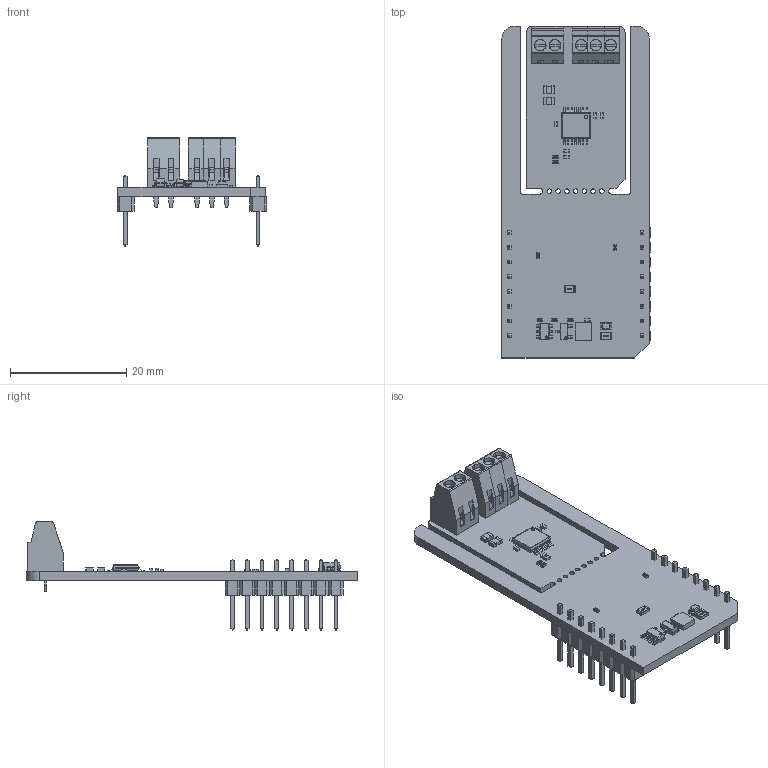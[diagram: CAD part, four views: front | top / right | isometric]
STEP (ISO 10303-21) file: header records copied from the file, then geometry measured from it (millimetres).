
FILE_DESCRIPTION(('Open CASCADE Model'),'2;1');
FILE_NAME('Open CASCADE Shape Model','2026-05-11T11:38:45',('Author'),( 'Open CASCADE'),'Open CASCADE STEP processor 7.5','Open CASCADE 7.5' ,'Unknown');
FILE_SCHEMA(('AUTOMOTIVE_DESIGN { 1 0 10303 214 1 1 1 1 }'));
Length unit declared in the file: millimetre
Products named in the file (47): PCB; Board; Open CASCADE STEP translator 7.5 1.1.1; R8; User Library-R_0402; R7; MBD1; Header 1x8; Free-Models; 1240637040; User_Library-PinHeaderX5-1_PinHeaderX5_Body_1; User_Library-PinHeaderX5-1_PinHeaderX5_Pins_1; JP1; User Library-R_0805; U2; User Library-SOT23-6-2; U1; 9590797408; Extruded; Q1; SOT23-3; R4; C1; User Library-SMD CAPACITOR0402; R2; LD1; led_0805_green; R1; R3; C2; C3; C4; User Library-SMD CAPACITOR0805; C5; C6; C7; C8; CN1; ScrewTerminal 2.54; R6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
Assembly tree (63 placements, depth 7):
  PCB
    Board
      Open CASCADE STEP translator 7.5 1.1.1
    R8
      User Library-R_0402
    R7
      User Library-R_0402
    MBD1
      Header 1x8  x2
        PCB
          Free-Models
            1240637040  x2
              User_Library-PinHeaderX5-1_PinHeaderX5_Body_1
              User_Library-PinHeaderX5-1_PinHeaderX5_Pins_1
    JP1
      User Library-R_0805
    U2
      User Library-SOT23-6-2
    U1
      9590797408
        Extruded
    Q1
      SOT23-3
    R4
      User Library-R_0402
    C1
      User Library-SMD CAPACITOR0402
    R2
      User Library-R_0402
    LD1
      led_0805_green
    R1
      User Library-R_0805
    R3
      User Library-R_0402
    C2
      User Library-SMD CAPACITOR0402
    C3
      User Library-SMD CAPACITOR0402
    C4
      User Library-SMD CAPACITOR0805
    C5
      User Library-SMD CAPACITOR0805
    C6
      User Library-SMD CAPACITOR0402
    C7
      User Library-SMD CAPACITOR0402
    C8
      User Library-SMD CAPACITOR0402
    CN1
      ScrewTerminal 2.54  x2
    R6
      User Library-R_0402
    TB1
      ScrewTerminal 2.54
    U3
      A33003LLUATR-125
        Body
        PinsArrayLR
    R5
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Bounding box: 25.78 x 57.15 x 18.61 mm (x, y, z)
Volume: 3234.6 mm3; surface area: 6835.3 mm2
Topology: 93 solids, 93 shells, 2565 faces, 6461 edges, 4106 vertices
Faces by surface type: plane 1863, cylinder 364, bspline 266, sphere 72
Full cylindrical faces by diameter (mm): 0.55 x1, 0.8 x7
Entity records: 38316 total; most frequent: CARTESIAN_POINT 9616, ORIENTED_EDGE 5052, DIRECTION 4780, EDGE_CURVE 2526, LINE 2004, VECTOR 2004, VERTEX_POINT 1624, AXIS2_PLACEMENT_3D 1388
